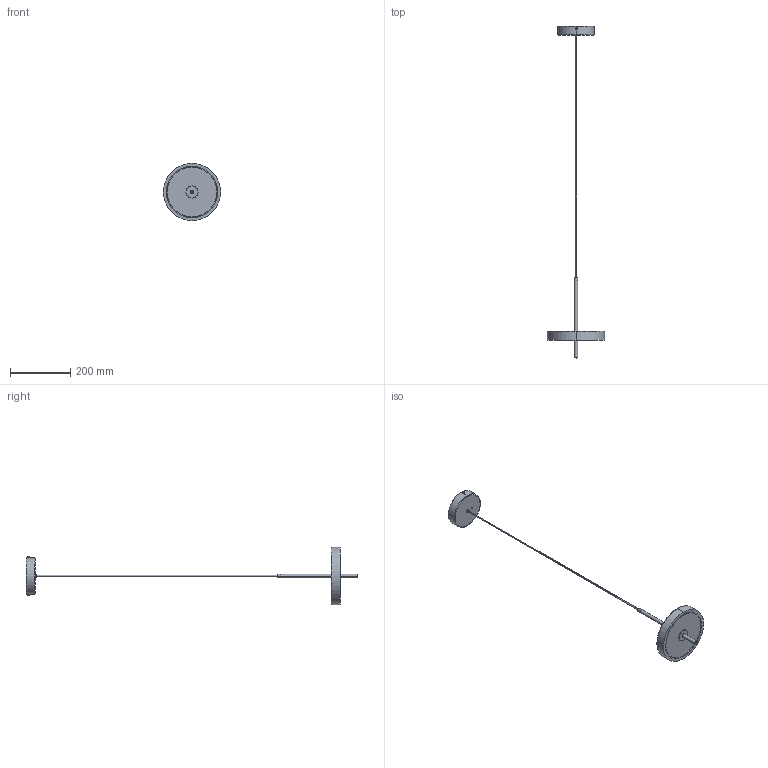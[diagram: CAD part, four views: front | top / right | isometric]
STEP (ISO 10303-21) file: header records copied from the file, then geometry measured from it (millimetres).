
FILE_DESCRIPTION (( 'STEP AP203' ), '1' );
FILE_NAME ('SN.S019_Conjunt SPIN Penjant Ø190mm_forma.STEP', '2025-07-08T11:26:55', ( '' ), ( '' ), 'SwSTEP 2.0', 'SolidWorks 2013', '' );
FILE_SCHEMA (( 'CONFIG_CONTROL_DESIGN' ));
Length unit declared in the file: millimetre
Products named in the file (13): GI442_Tapa Ø185 fixació LED; AG019_M4x8; FU034_Anell Spin Ø190x31mm; PP046_Difusor amb lli Ø170; SN.S019_Conjunt SPIN Penjant Ø190mm_forma; PP045_Difusor amb lli Ø164; GI451_Arandela Ø50 pas 10; KO219_Cable elèctric 2x0.35_80cm; GI197_SUP. FIXACIÓ FLORÓ 120; AR071_FLORÓ ø120x30 2xM4 sistema USA; MS050_Pasacable abierto _11x_4_498070.STEP; GI448_Tija superior Ø12x190_M10x1_pasØ2; GI450_Tub Ø12x70_M10x1
Assembly tree (14 placements, depth 2):
  SN.S019_Conjunt SPIN Penjant Ø190mm_forma
    FU034_Anell Spin Ø190x31mm
    GI442_Tapa Ø185 fixació LED
    PP046_Difusor amb lli Ø170
    PP045_Difusor amb lli Ø164
    GI451_Arandela Ø50 pas 10  x2
    GI450_Tub Ø12x70_M10x1
    GI448_Tija superior Ø12x190_M10x1_pasØ2
    KO219_Cable elèctric 2x0.35_80cm
    AR071_FLORÓ ø120x30 2xM4 sistema USA
    GI197_SUP. FIXACIÓ FLORÓ 120
    AG019_M4x8  x2
    MS050_Pasacable abierto _11x_4_498070.STEP
Bounding box: 190 x 1103.5 x 190 mm (x, y, z)
Volume: 366531.6 mm3; surface area: 286407 mm2
Topology: 14 solids, 14 shells, 206 faces, 456 edges, 292 vertices
Faces by surface type: cylinder 118, plane 58, torus 16, bspline 8, cone 6
Entity records: 7258 total; most frequent: CARTESIAN_POINT 1478, DIRECTION 1014, ORIENTED_EDGE 828, AXIS2_PLACEMENT_3D 440, EDGE_CURVE 414, VERTEX_POINT 266, CIRCLE 246, EDGE_LOOP 232
